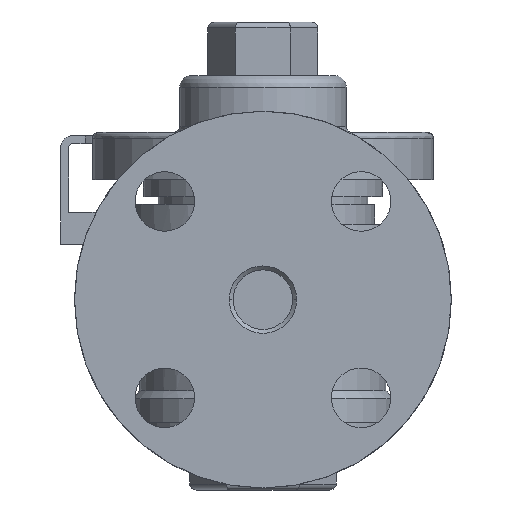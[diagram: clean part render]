
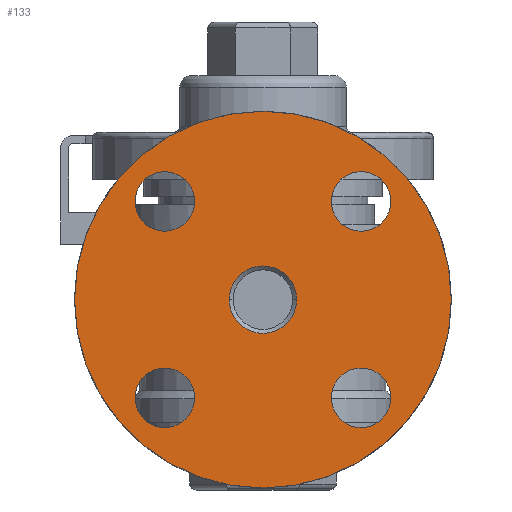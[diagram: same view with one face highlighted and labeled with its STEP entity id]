
A CAD part, left-side view. The second image highlights one B-rep face of the part: STEP entity #133.
In plain terms, the highlighted planar face has unit normal (-1, 0, 0).
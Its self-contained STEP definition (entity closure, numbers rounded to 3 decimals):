
#133=ADVANCED_FACE('',(#814,#815,#816,#817,#818,#819),#813,.F.);
#813=PLANE('',#1984);
#814=FACE_OUTER_BOUND('',#1985,.T.);
#815=FACE_BOUND('',#1986,.T.);
#816=FACE_BOUND('',#1987,.T.);
#817=FACE_BOUND('',#1988,.T.);
#818=FACE_BOUND('',#1989,.T.);
#819=FACE_BOUND('',#1990,.T.);
#1981=CARTESIAN_POINT('',(-78.,-57.5,-92.272));
#1982=DIRECTION('',(1.,0.,0.));
#1983=DIRECTION('',(0.,1.,0.));
#1984=AXIS2_PLACEMENT_3D('',#1981,#1982,#1983);
#1985=EDGE_LOOP('',(#3105,#3106));
#1986=EDGE_LOOP('',(#3107,#3108));
#1987=EDGE_LOOP('',(#3109,#3110));
#1988=EDGE_LOOP('',(#3111,#3112));
#1989=EDGE_LOOP('',(#3113,#3114));
#1990=EDGE_LOOP('',(#3115,#3116));
#3105=ORIENTED_EDGE('',*,*,#3729,.T.);
#3106=ORIENTED_EDGE('',*,*,#3730,.T.);
#3107=ORIENTED_EDGE('',*,*,#3731,.F.);
#3108=ORIENTED_EDGE('',*,*,#3732,.F.);
#3109=ORIENTED_EDGE('',*,*,#3733,.F.);
#3110=ORIENTED_EDGE('',*,*,#3734,.F.);
#3111=ORIENTED_EDGE('',*,*,#3735,.F.);
#3112=ORIENTED_EDGE('',*,*,#3736,.F.);
#3113=ORIENTED_EDGE('',*,*,#3737,.F.);
#3114=ORIENTED_EDGE('',*,*,#3738,.F.);
#3115=ORIENTED_EDGE('',*,*,#3739,.F.);
#3116=ORIENTED_EDGE('',*,*,#3740,.F.);
#3729=EDGE_CURVE('',#5138,#5139,#5140,.T.);
#3730=EDGE_CURVE('',#5139,#5138,#5146,.T.);
#3731=EDGE_CURVE('',#5152,#5153,#5154,.T.);
#3732=EDGE_CURVE('',#5153,#5152,#5160,.T.);
#3733=EDGE_CURVE('',#5166,#5167,#5168,.T.);
#3734=EDGE_CURVE('',#5167,#5166,#5174,.T.);
#3735=EDGE_CURVE('',#5180,#5181,#5182,.T.);
#3736=EDGE_CURVE('',#5181,#5180,#5188,.T.);
#3737=EDGE_CURVE('',#5194,#5195,#5196,.T.);
#3738=EDGE_CURVE('',#5195,#5194,#5202,.T.);
#3739=EDGE_CURVE('',#5208,#5209,#5210,.T.);
#3740=EDGE_CURVE('',#5209,#5208,#5216,.T.);
#5138=VERTEX_POINT('',#7070);
#5139=VERTEX_POINT('',#7071);
#5140=CIRCLE('',#7075,47.5);
#5146=CIRCLE('',#7079,47.5);
#5152=VERTEX_POINT('',#7080);
#5153=VERTEX_POINT('',#7081);
#5154=CIRCLE('',#7085,7.5);
#5160=CIRCLE('',#7089,7.5);
#5166=VERTEX_POINT('',#7090);
#5167=VERTEX_POINT('',#7091);
#5168=CIRCLE('',#7095,7.5);
#5174=CIRCLE('',#7099,7.5);
#5180=VERTEX_POINT('',#7100);
#5181=VERTEX_POINT('',#7101);
#5182=CIRCLE('',#7105,7.5);
#5188=CIRCLE('',#7109,7.5);
#5194=VERTEX_POINT('',#7110);
#5195=VERTEX_POINT('',#7111);
#5196=CIRCLE('',#7115,7.5);
#5202=CIRCLE('',#7119,7.5);
#5208=VERTEX_POINT('',#7120);
#5209=VERTEX_POINT('',#7121);
#5210=CIRCLE('',#7125,8.5);
#5216=CIRCLE('',#7129,8.5);
#7070=CARTESIAN_POINT('',(-78.,-47.5,0.));
#7071=CARTESIAN_POINT('',(-78.,47.5,0.));
#7072=CARTESIAN_POINT('',(-78.,0.,0.));
#7073=DIRECTION('',(-1.,0.,0.));
#7074=DIRECTION('',(0.,-1.,0.));
#7075=AXIS2_PLACEMENT_3D('',#7072,#7073,#7074);
#7076=CARTESIAN_POINT('',(-78.,0.,0.));
#7077=DIRECTION('',(-1.,0.,0.));
#7078=DIRECTION('',(0.,-1.,0.));
#7079=AXIS2_PLACEMENT_3D('',#7076,#7077,#7078);
#7080=CARTESIAN_POINT('',(-78.,-17.249,-24.749));
#7081=CARTESIAN_POINT('',(-78.,-32.249,-24.749));
#7082=CARTESIAN_POINT('',(-78.,-24.749,-24.749));
#7083=DIRECTION('',(-1.,0.,0.));
#7084=DIRECTION('',(0.,-1.,0.));
#7085=AXIS2_PLACEMENT_3D('',#7082,#7083,#7084);
#7086=CARTESIAN_POINT('',(-78.,-24.749,-24.749));
#7087=DIRECTION('',(-1.,0.,0.));
#7088=DIRECTION('',(0.,-1.,0.));
#7089=AXIS2_PLACEMENT_3D('',#7086,#7087,#7088);
#7090=CARTESIAN_POINT('',(-78.,-17.249,24.749));
#7091=CARTESIAN_POINT('',(-78.,-32.249,24.749));
#7092=CARTESIAN_POINT('',(-78.,-24.749,24.749));
#7093=DIRECTION('',(-1.,0.,0.));
#7094=DIRECTION('',(0.,-1.,0.));
#7095=AXIS2_PLACEMENT_3D('',#7092,#7093,#7094);
#7096=CARTESIAN_POINT('',(-78.,-24.749,24.749));
#7097=DIRECTION('',(-1.,0.,0.));
#7098=DIRECTION('',(0.,-1.,0.));
#7099=AXIS2_PLACEMENT_3D('',#7096,#7097,#7098);
#7100=CARTESIAN_POINT('',(-78.,32.249,24.749));
#7101=CARTESIAN_POINT('',(-78.,17.249,24.749));
#7102=CARTESIAN_POINT('',(-78.,24.749,24.749));
#7103=DIRECTION('',(-1.,0.,0.));
#7104=DIRECTION('',(0.,-1.,0.));
#7105=AXIS2_PLACEMENT_3D('',#7102,#7103,#7104);
#7106=CARTESIAN_POINT('',(-78.,24.749,24.749));
#7107=DIRECTION('',(-1.,0.,0.));
#7108=DIRECTION('',(0.,-1.,0.));
#7109=AXIS2_PLACEMENT_3D('',#7106,#7107,#7108);
#7110=CARTESIAN_POINT('',(-78.,32.249,-24.749));
#7111=CARTESIAN_POINT('',(-78.,17.249,-24.749));
#7112=CARTESIAN_POINT('',(-78.,24.749,-24.749));
#7113=DIRECTION('',(-1.,0.,0.));
#7114=DIRECTION('',(0.,-1.,0.));
#7115=AXIS2_PLACEMENT_3D('',#7112,#7113,#7114);
#7116=CARTESIAN_POINT('',(-78.,24.749,-24.749));
#7117=DIRECTION('',(-1.,0.,0.));
#7118=DIRECTION('',(0.,-1.,0.));
#7119=AXIS2_PLACEMENT_3D('',#7116,#7117,#7118);
#7120=CARTESIAN_POINT('',(-78.,0.,-8.5));
#7121=CARTESIAN_POINT('',(-78.,0.,8.5));
#7122=CARTESIAN_POINT('',(-78.,0.,0.));
#7123=DIRECTION('',(-1.,0.,0.));
#7124=DIRECTION('',(0.,0.,1.));
#7125=AXIS2_PLACEMENT_3D('',#7122,#7123,#7124);
#7126=CARTESIAN_POINT('',(-78.,0.,0.));
#7127=DIRECTION('',(-1.,0.,0.));
#7128=DIRECTION('',(0.,0.,1.));
#7129=AXIS2_PLACEMENT_3D('',#7126,#7127,#7128);
